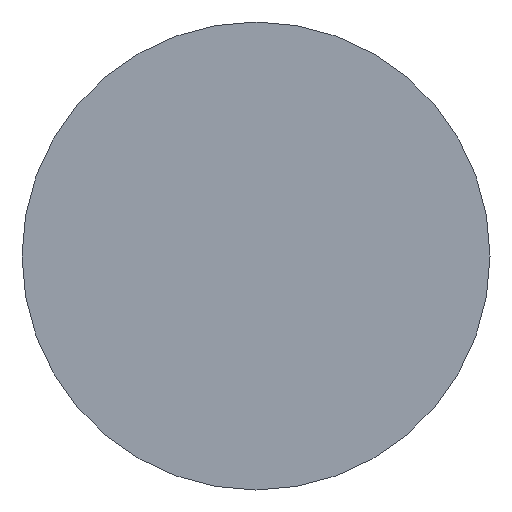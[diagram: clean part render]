
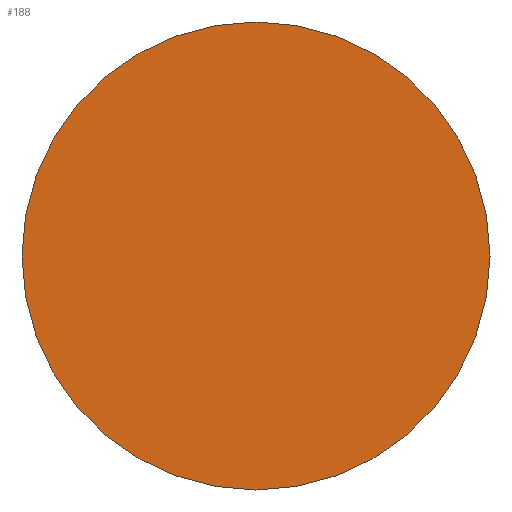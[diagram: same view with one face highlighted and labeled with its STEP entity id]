
A CAD part, left-side view. The second image highlights one B-rep face of the part: STEP entity #188.
In plain terms, the highlighted planar face has unit normal (-1, 0, 0).
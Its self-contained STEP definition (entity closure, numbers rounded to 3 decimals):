
#5 = VERTEX_POINT ( 'NONE', #124 ) ;
#27 = EDGE_LOOP ( 'NONE', ( #244, #333 ) ) ;
#37 = DIRECTION ( 'NONE',  ( 0., 1., 0. ) ) ;
#70 = DIRECTION ( 'NONE',  ( 1., 0., 0. ) ) ;
#93 = CARTESIAN_POINT ( 'NONE',  ( 0., -3., 0. ) ) ;
#96 = DIRECTION ( 'NONE',  ( -1., 0., 0. ) ) ;
#116 = CARTESIAN_POINT ( 'NONE',  ( 0., 0., 0. ) ) ;
#124 = CARTESIAN_POINT ( 'NONE',  ( 0., 3., 0. ) ) ;
#127 = DIRECTION ( 'NONE',  ( 0., -1., 0. ) ) ;
#145 = VERTEX_POINT ( 'NONE', #93 ) ;
#147 = EDGE_CURVE ( 'NONE', #5, #145, #366, .T. ) ;
#151 = DIRECTION ( 'NONE',  ( 0., -1., 0. ) ) ;
#170 = DIRECTION ( 'NONE',  ( -1., 0., 0. ) ) ;
#188 = ADVANCED_FACE ( 'NONE', ( #289 ), #284, .F. ) ;
#209 = CARTESIAN_POINT ( 'NONE',  ( 0., 0., 0. ) ) ;
#223 = AXIS2_PLACEMENT_3D ( 'NONE', #116, #96, #127 ) ;
#228 = CIRCLE ( 'NONE', #328, 3. ) ;
#244 = ORIENTED_EDGE ( 'NONE', *, *, #361, .T. ) ;
#284 = PLANE ( 'NONE',  #304 ) ;
#289 = FACE_OUTER_BOUND ( 'NONE', #27, .T. ) ;
#304 = AXIS2_PLACEMENT_3D ( 'NONE', #209, #70, #37 ) ;
#319 = CARTESIAN_POINT ( 'NONE',  ( 0., 0., 0. ) ) ;
#328 = AXIS2_PLACEMENT_3D ( 'NONE', #319, #170, #151 ) ;
#333 = ORIENTED_EDGE ( 'NONE', *, *, #147, .T. ) ;
#361 = EDGE_CURVE ( 'NONE', #145, #5, #228, .T. ) ;
#366 = CIRCLE ( 'NONE', #223, 3. ) ;
